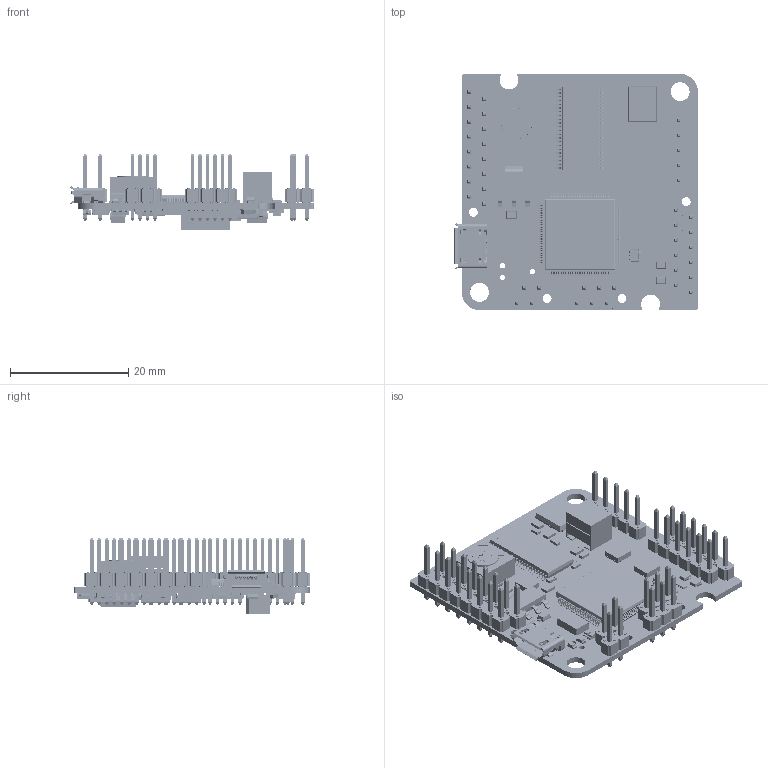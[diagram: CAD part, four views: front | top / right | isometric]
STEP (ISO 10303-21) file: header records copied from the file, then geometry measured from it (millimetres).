
FILE_DESCRIPTION (( 'STEP AP214' ), '1' );
FILE_NAME ('i032-01H1.step', '2015-05-19T14:06:24', ( '' ), ( '' ), 'SwSTEP 2.0', 'SolidWorks 2014', '' );
FILE_SCHEMA (( 'AUTOMOTIVE_DESIGN' ));
Length unit declared in the file: millimetre
Products named in the file (295): NT2; Extruded; U13; 623172224; U17; SW3DPS-SOT-23-5-DEFAULT; LN2; SW3dPS-SOD-323F_358337745; Extruded_19; Extruded_6; Q5; SO8; D7; D14; Sphere_8; C108; Extruded_24; User_Library-Chip_Inductor_0603; 623172104; Sphere; Extruded_12; Extruded_3; 519042192; C46; 519029648; Sphere_9; ORIGIN1; User_Library-SC70-5-MAX_2_1; R_0603; s10129378-x06001BLF; D5; 619705432; C_0603; User_Library-SC70-5-MAX_5_1; H1; Extruded_7; TSOT-23-6(S6); 621057360; 619705912; 519043088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
Assembly tree (516 placements, depth 8):
  i032-01H1
    D10
      User_Library-SOD-323
    D7
      SW3dPS-SOD-323F
        SW3dPS-SOD-323F_Board5
        SW3dPS-SOD-323F_Free-Models3
          SW3dPS-SOD-323F_BODYSOD323F_3  x2
            SW3dPS-SOD-323F_Free-Models4
              SW3dPS-SOD-323F_358340561
                SW3dPS-SOD-323F_Extruded9
            SW3dPS-SOD-323F_Board4
          SW3dPS-SOD-323F_358337361  x2
            SW3dPS-SOD-323F_Extruded8
          SW3dPS-SOD-323F_BODYSOD323F_4  x2
            SW3dPS-SOD-323F_Free-Models5
              SW3dPS-SOD-323F_358339793
                SW3dPS-SOD-323F_Extruded10
            SW3dPS-SOD-323F_Board3
          SW3dPS-SOD-323F_358338001
            SW3dPS-SOD-323F_Extruded7
          SW3dPS-SOD-323F_358337489
            SW3dPS-SOD-323F_Extruded6
          SW3dPS-SOD-323F_358337745
            SW3dPS-SOD-323F_Extruded11
    R52
      R_0603
    R47
      R_0603
    C109
      C_0805
    C112
      C_0805
    C75
      C_0805
    C43
      C_0805
    C111
      C_0603
    C49
      C_0805
    C107
      C_1206
    C110
      C_0603
    C108
      C_0603
    C114
      C_0603
    C30
      C_0805
    C81
      C_0805
    C65
      C_0805
    C106
      621057232
        Extruded
      621057360  x2
        Extruded_2
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Bounding box: 41.31 x 40.02 x 13.04 mm (x, y, z)
Volume: 3403.7 mm3; surface area: 9683.7 mm2
Topology: 473 solids, 1226 shells, 11744 faces, 31412 edges, 21589 vertices
Faces by surface type: plane 8943, cylinder 2458, sphere 172, bspline 161, cone 10
Entity records: 295587 total; most frequent: CARTESIAN_POINT 49966, DIRECTION 38846, ORIENTED_EDGE 37854, EDGE_CURVE 20829, VECTOR 16488, LINE 16488, VERTEX_POINT 14771, AXIS2_PLACEMENT_3D 11179
